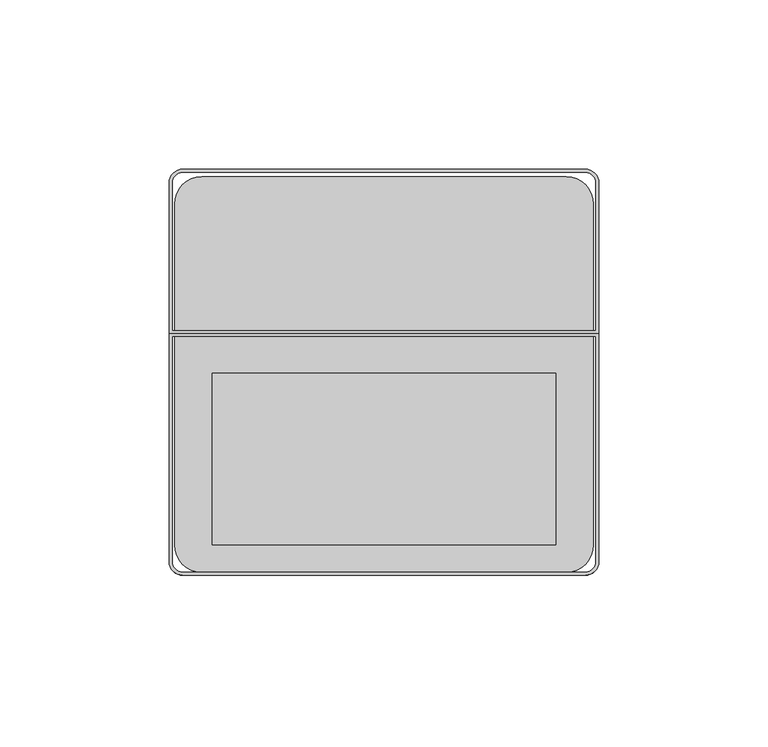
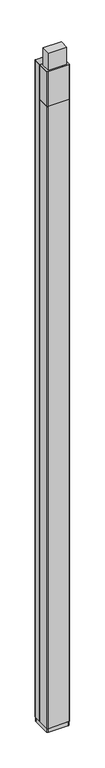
"""IFC4 building model written with IfcOpenShell, lengths in millimetres: proxy geometry, Jumbo_Tele_Pole-Wiremold-Blank_Aluminum_Pole : NP800C-12-8B."""

import ifcopenshell
import ifcopenshell.guid

model = None  # the IFC model being written
_history = None  # IfcOwnerHistory: only IFC2X3 demands one
_inside = {}  # id of a spatial element -> (the spatial element, [elements in it])
_under = {}  # id of a project, library or spatial element -> (it, [spatial elements below it])
_declared = {}  # id of a project -> (the project, [libraries it declares])
_typed = {}  # id of a type object -> (the type object, [elements of that type])
_made_of = {}  # id of a material, layer set ... -> (it, [elements and type objects made of it])


def new_model(schema):
    """Start an empty IFC model of exactly this schema.

    Asked for "IFC4X3", IfcOpenShell would pick the latest addendum, in which some entities
    have other attributes; the version numbers below select the first issue.
    IFC2X3 requires an IfcOwnerHistory on every rooted entity: one is made here for all.
    """
    global model, _history
    if schema == "IFC4X3":
        model = ifcopenshell.file(schema_version=(4, 3, 0, 0))
    else:
        model = ifcopenshell.file(schema=schema)
    _inside.clear()
    _under.clear()
    _declared.clear()
    _typed.clear()
    _made_of.clear()
    _history = None
    if model.schema == "IFC2X3":
        org = make("IfcOrganization", Name="unknown")
        user = make(
            "IfcPersonAndOrganization",
            ThePerson=make("IfcPerson", FamilyName="unknown"),
            TheOrganization=org,
        )
        app = make(
            "IfcApplication",
            ApplicationDeveloper=org,
            Version="unknown",
            ApplicationFullName="unknown",
            ApplicationIdentifier="unknown",
        )
        _history = make(
            "IfcOwnerHistory",
            OwningUser=user,
            OwningApplication=app,
            ChangeAction="ADDED",
            CreationDate=0,
        )
    return model


def make(cls, **values):
    """One entity of the class cls with the attributes given. An attribute that is None is left unset."""
    return model.create_entity(
        cls, **{name: value for name, value in values.items() if value is not None}
    )


def rooted(cls, **values):
    """An entity with a GlobalId (a new one), such as an element, a storey or a relation."""
    return make(cls, GlobalId=ifcopenshell.guid.new(), OwnerHistory=_history, **values)


def si_unit(unit_type, name, prefix=None):
    """IfcSIUnit, for example si_unit("LENGTHUNIT", "METRE", prefix="MILLI")."""
    return make("IfcSIUnit", UnitType=unit_type, Prefix=prefix, Name=name)


def assignment(units):
    """IfcUnitAssignment: the units of a project."""
    return None if units is None else make("IfcUnitAssignment", Units=units)


def point(xyz):
    """IfcCartesianPoint."""
    return None if xyz is None else make("IfcCartesianPoint", Coordinates=xyz)


def direction(xyz):
    """IfcDirection."""
    return None if xyz is None else make("IfcDirection", DirectionRatios=xyz)


def frame(location, z_axis=None, x_axis=None):
    """IfcAxis2Placement3D, a coordinate frame: its origin and axes. An axis left out is left unset."""
    return make(
        "IfcAxis2Placement3D",
        Location=point(location),
        Axis=direction(z_axis),
        RefDirection=direction(x_axis),
    )


def frame_2d(location, x_axis=None):
    """IfcAxis2Placement2D, a coordinate frame in the plane: its origin and x axis."""
    return make(
        "IfcAxis2Placement2D", Location=point(location), RefDirection=direction(x_axis)
    )


def origin():
    """The frame at (0, 0, 0) with its axes left unset."""
    return frame((0.0, 0.0, 0.0))


def origin_with_axes():
    """The frame at (0, 0, 0) with the z axis (0, 0, 1) and the x axis (1, 0, 0) written out."""
    return frame((0.0, 0.0, 0.0), z_axis=(0.0, 0.0, 1.0), x_axis=(1.0, 0.0, 0.0))


def place(relative_to, where):
    """IfcLocalPlacement: puts the frame where relative to a parent placement (None: the world)."""
    return make(
        "IfcLocalPlacement", PlacementRelTo=relative_to, RelativePlacement=where
    )


def context(
    kind, dimensions, precision=None, world=None, true_north=None, identifier=None
):
    """IfcGeometricRepresentationContext, for example the 3D "Model" context."""
    return make(
        "IfcGeometricRepresentationContext",
        ContextIdentifier=identifier,
        ContextType=kind,
        CoordinateSpaceDimension=dimensions,
        Precision=precision,
        WorldCoordinateSystem=world,
        TrueNorth=true_north,
    )


def project(units=None, contexts=None):
    """IfcProject with its units and contexts."""
    return rooted(
        "IfcProject",
        Name="project",
        RepresentationContexts=contexts,
        UnitsInContext=assignment(units),
    )


def spatial(cls, under=None, at=None, **own):
    """A site, building, storey or space (cls), placed at a placement, below another one or the project."""
    s = rooted(cls, ObjectPlacement=at, **own)
    if under is not None:
        _under.setdefault(under.id(), (under, []))[1].append(s)
    return s


def polyline(points):
    """IfcPolyline through the points."""
    return make("IfcPolyline", Points=[point(p) for p in points])


def circle_curve(where, radius):
    """IfcCircle in the frame where."""
    return make("IfcCircle", Position=where, Radius=radius)


def trimmed(basis, trim1, trim2, sense, master):
    """IfcTrimmedCurve: the piece of a basis curve between two trims."""
    return make(
        "IfcTrimmedCurve",
        BasisCurve=basis,
        Trim1=trim1,
        Trim2=trim2,
        SenseAgreement=sense,
        MasterRepresentation=master,
    )


def segment(curve, same_sense, transition):
    """IfcCompositeCurveSegment."""
    return make(
        "IfcCompositeCurveSegment",
        Transition=transition,
        SameSense=same_sense,
        ParentCurve=curve,
    )


def composite_curve(segments, self_intersect=None):
    """IfcCompositeCurve: segments joined end to end."""
    return make("IfcCompositeCurve", Segments=segments, SelfIntersect=self_intersect)


def outline(outer, holes=None, kind="AREA"):
    """IfcArbitraryClosedProfileDef: a profile drawn as a closed curve; with holes, ...WithVoids."""
    if holes is None:
        return make("IfcArbitraryClosedProfileDef", ProfileType=kind, OuterCurve=outer)
    return make(
        "IfcArbitraryProfileDefWithVoids",
        ProfileType=kind,
        OuterCurve=outer,
        InnerCurves=holes,
    )


def extrude(swept, where, along, depth):
    """IfcExtrudedAreaSolid: the profile swept, set in the frame where, extruded along a direction by depth."""
    return make(
        "IfcExtrudedAreaSolid",
        SweptArea=swept,
        Position=where,
        ExtrudedDirection=direction(along),
        Depth=depth,
    )


def shape(context_of_items, identifier, shape_type, items):
    """IfcShapeRepresentation: the items that make up one representation, for example the "Body"."""
    return make(
        "IfcShapeRepresentation",
        ContextOfItems=context_of_items,
        RepresentationIdentifier=identifier,
        RepresentationType=shape_type,
        Items=items,
    )


def source(mapping_origin, context_of_items, identifier, shape_type, items):
    """IfcRepresentationMap: a shape defined once, which mapped items show again and again."""
    return make(
        "IfcRepresentationMap",
        MappingOrigin=mapping_origin,
        MappedRepresentation=shape(context_of_items, identifier, shape_type, items),
    )


def transform(
    local_origin,
    x_axis=None,
    y_axis=None,
    z_axis=None,
    scale=None,
    scale2=None,
    scale3=None,
    uniform=True,
):
    """IfcCartesianTransformationOperator3D, or its non-uniform kind. x_axis, y_axis, z_axis: its Axis1, 2, 3."""
    if uniform:
        return make(
            "IfcCartesianTransformationOperator3D",
            Axis1=direction(x_axis),
            Axis2=direction(y_axis),
            LocalOrigin=point(local_origin),
            Scale=scale,
            Axis3=direction(z_axis),
        )
    return make(
        "IfcCartesianTransformationOperator3DnonUniform",
        Axis1=direction(x_axis),
        Axis2=direction(y_axis),
        LocalOrigin=point(local_origin),
        Scale=scale,
        Axis3=direction(z_axis),
        Scale2=scale2,
        Scale3=scale3,
    )


def mapped(mapping_source, mapping_target):
    """IfcMappedItem: shows the shape of a source again, moved by a transform."""
    return make(
        "IfcMappedItem", MappingSource=mapping_source, MappingTarget=mapping_target
    )


def made_of(thing, what):
    """Note that an element or type object is made of a material, layer set ...; save() writes the relation."""
    if what is not None:
        _made_of.setdefault(what.id(), (what, []))[1].append(thing)
    return thing


def element(
    cls,
    number,
    at=None,
    inside=None,
    cuts=None,
    type_object=None,
    material=None,
    context=None,
    identifier="Body",
    shape_type=None,
    held_by="IfcProductDefinitionShape",
    body=None,
    shapes=None,
    **own,
):
    """One element of the class cls, such as IfcWall. Its Tag is "e" and its number.

    at: its placement. inside: the storey or other place that contains it. cuts: it is an
    opening in that element (IfcRelVoidsElement). A single representation is given by context,
    identifier, shape_type and body (its items); several are given by shapes. held_by: the class
    of the entity that holds the representations. save() writes the other relations.
    """
    e = rooted(cls, Tag="e%d" % number, ObjectPlacement=at, **own)
    if body is not None:
        shapes = [shape(context, identifier, shape_type, body)]
    if shapes is not None:
        e.Representation = make(held_by, Representations=shapes)
    if inside is not None:
        _inside.setdefault(inside.id(), (inside, []))[1].append(e)
    if cuts is not None:
        rooted(
            "IfcRelVoidsElement", RelatingBuildingElement=cuts, RelatedOpeningElement=e
        )
    if type_object is not None:
        _typed.setdefault(type_object.id(), (type_object, []))[1].append(e)
    return made_of(e, material)


def aggregate(whole, parts):
    """IfcRelAggregates: a whole, such as a stair, and the parts it consists of."""
    return rooted("IfcRelAggregates", RelatingObject=whole, RelatedObjects=parts)


def save(model, path):
    """Write the relations noted so far, then the file.

    IfcRelAggregates (storeys below a building ...), IfcRelContainedInSpatialStructure (elements
    in a storey), IfcRelDefinesByType, IfcRelAssociatesMaterial and IfcRelDeclares: one each for
    every whole, place, type object, material and project.
    """
    for whole, parts in _under.values():
        aggregate(whole, parts)
    for where, things in _inside.values():
        rooted(
            "IfcRelContainedInSpatialStructure",
            RelatedElements=things,
            RelatingStructure=where,
        )
    for kind, things in _typed.values():
        rooted("IfcRelDefinesByType", RelatedObjects=things, RelatingType=kind)
    for what, things in _made_of.values():
        rooted("IfcRelAssociatesMaterial", RelatedObjects=things, RelatingMaterial=what)
    for by, libraries in _declared.values():
        rooted("IfcRelDeclares", RelatingContext=by, RelatedDefinitions=libraries)
    model.write(path)


def electrical_fixtures_449e16e0(model_context):
    return source(origin(), model_context, "Body", "SweptSolid", [
        extrude(outline(polyline([(50.8, 7.35), (-50.8, 7.35), (-50.8, 58.15), (50.8, 58.15), (50.8, 7.35)])), frame((0.0, 0.0, 3860.8), z_axis=(0.0, 0.0, 1.0), x_axis=(1.0, 0.0, 0.0)), (0.0, 0.0, 1.0), 101.6),
        extrude(outline(composite_curve([segment(polyline([(-63.5, 69.85), (63.5, 69.85), (63.5, 2.4125)]), True, "CONTINUOUS"), segment(trimmed(circle_curve(frame_2d((59.5, 2.4125)), 4.0), [point((63.5, 2.4125))], [point((59.5, -1.5875))], False, "CARTESIAN"), True, "CONTINUOUS"), segment(polyline([(59.5, -1.5875), (-59.5, -1.5875)]), True, "CONTINUOUS"), segment(trimmed(circle_curve(frame_2d((-59.5, 2.4125)), 4.0), [point((-59.5, -1.5875))], [point((-63.5, 2.4125))], False, "CARTESIAN"), True, "CONTINUOUS"), segment(polyline([(-63.5, 2.4125), (-63.5, 69.85)]), True, "CONTINUOUS")], self_intersect=False), holes=[composite_curve([segment(trimmed(circle_curve(frame_2d((-59.5, 2.4125)), 3.0), [point((-62.5, 2.4125))], [point((-59.5, -0.5875))], True, "CARTESIAN"), True, "CONTINUOUS"), segment(polyline([(-59.5, -0.5875), (59.5, -0.5875)]), True, "CONTINUOUS"), segment(trimmed(circle_curve(frame_2d((59.5, 2.4125)), 3.0), [point((59.5, -0.5875))], [point((62.5, 2.4125))], True, "CARTESIAN"), True, "CONTINUOUS"), segment(polyline([(62.5, 2.4125), (62.5, 68.85), (-62.5, 68.85), (-62.5, 2.4125)]), True, "CONTINUOUS")], self_intersect=False)]), frame((0.0, 0.0, 3657.6), z_axis=(0.0, 0.0, 1.0), x_axis=(1.0, 0.0, 0.0)), (0.0, 0.0, 1.0), 203.2),
        extrude(outline(composite_curve([segment(trimmed(circle_curve(frame_2d((59.5, 114.4125)), 4.0), [point((59.5, 118.4125))], [point((63.5, 114.4125))], False, "CARTESIAN"), True, "CONTINUOUS"), segment(polyline([(63.5, 114.4125), (63.5, 69.85), (-63.5, 69.85), (-63.5, 114.4125)]), True, "CONTINUOUS"), segment(trimmed(circle_curve(frame_2d((-59.5, 114.4125)), 4.0), [point((-63.5, 114.4125))], [point((-59.5, 118.4125))], False, "CARTESIAN"), True, "CONTINUOUS"), segment(polyline([(-59.5, 118.4125), (59.5, 118.4125)]), True, "CONTINUOUS")], self_intersect=False), holes=[composite_curve([segment(polyline([(62.5, 70.85), (62.5, 114.4125)]), True, "CONTINUOUS"), segment(trimmed(circle_curve(frame_2d((59.5, 114.4125)), 3.0), [point((62.5, 114.4125))], [point((59.5, 117.4125))], True, "CARTESIAN"), True, "CONTINUOUS"), segment(polyline([(59.5, 117.4125), (-59.5, 117.4125)]), True, "CONTINUOUS"), segment(trimmed(circle_curve(frame_2d((-59.5, 114.4125)), 3.0), [point((-59.5, 117.4125))], [point((-62.5, 114.4125))], True, "CARTESIAN"), True, "CONTINUOUS"), segment(polyline([(-62.5, 114.4125), (-62.5, 70.85), (62.5, 70.85)]), True, "CONTINUOUS")], self_intersect=False)]), origin_with_axes(), (0.0, 0.0, 1.0), 3860.8),
        extrude(outline(composite_curve([segment(polyline([(63.5, 69.85), (63.5, 2.4125)]), True, "CONTINUOUS"), segment(trimmed(circle_curve(frame_2d((59.5, 2.4125)), 4.0), [point((63.5, 2.4125))], [point((59.5, -1.5875))], False, "CARTESIAN"), True, "CONTINUOUS"), segment(polyline([(59.5, -1.5875), (-59.5, -1.5875)]), True, "CONTINUOUS"), segment(trimmed(circle_curve(frame_2d((-59.5, 2.4125)), 4.0), [point((-59.5, -1.5875))], [point((-63.5, 2.4125))], False, "CARTESIAN"), True, "CONTINUOUS"), segment(polyline([(-63.5, 2.4125), (-63.5, 69.85), (63.5, 69.85)]), True, "CONTINUOUS")], self_intersect=False), holes=[composite_curve([segment(polyline([(-62.5, 69.05), (-62.5, 2.4125)]), True, "CONTINUOUS"), segment(trimmed(circle_curve(frame_2d((-59.5, 2.4125)), 3.0), [point((-62.5, 2.4125))], [point((-59.5, -0.5875))], True, "CARTESIAN"), True, "CONTINUOUS"), segment(polyline([(-59.5, -0.5875), (59.5, -0.5875)]), True, "CONTINUOUS"), segment(trimmed(circle_curve(frame_2d((59.5, 2.4125)), 3.0), [point((59.5, -0.5875))], [point((62.5, 2.4125))], True, "CARTESIAN"), True, "CONTINUOUS"), segment(polyline([(62.5, 2.4125), (62.5, 69.05), (-62.5, 69.05)]), True, "CONTINUOUS")], self_intersect=False)]), origin_with_axes(), (0.0, 0.0, 1.0), 3657.6),
        extrude(outline(composite_curve([segment(trimmed(circle_curve(frame_2d((53.9125, 108.825)), 8.0), [point((53.9125, 116.825))], [point((61.9125, 108.825))], False, "CARTESIAN"), True, "CONTINUOUS"), segment(polyline([(61.9125, 108.825), (61.9125, 8.0)]), True, "CONTINUOUS"), segment(trimmed(circle_curve(frame_2d((53.9125, 8.0)), 8.0), [point((61.9125, 8.0))], [point((53.9125, 0.0))], False, "CARTESIAN"), True, "CONTINUOUS"), segment(polyline([(53.9125, 0.0), (-53.9125, 0.0)]), True, "CONTINUOUS"), segment(trimmed(circle_curve(frame_2d((-53.9125, 8.0)), 8.0), [point((-53.9125, 0.0))], [point((-61.9125, 8.0))], False, "CARTESIAN"), True, "CONTINUOUS"), segment(polyline([(-61.9125, 8.0), (-61.9125, 108.825)]), True, "CONTINUOUS"), segment(trimmed(circle_curve(frame_2d((-53.9125, 108.825)), 8.0), [point((-61.9125, 108.825))], [point((-53.9125, 116.825))], False, "CARTESIAN"), True, "CONTINUOUS"), segment(polyline([(-53.9125, 116.825), (53.9125, 116.825)]), True, "CONTINUOUS")], self_intersect=False)), frame((0.0, 0.0, -25.4), z_axis=(0.0, 0.0, 1.0), x_axis=(1.0, 0.0, 0.0)), (0.0, 0.0, 1.0), 25.4),
    ])


if __name__ == "__main__":
    model = new_model("IFC4")
    model_context = context("Model", 3, world=origin())
    ifc_project = project(units=[si_unit("LENGTHUNIT", "METRE", prefix="MILLI")], contexts=[model_context])
    site = spatial("IfcSite", under=ifc_project)
    building = spatial("IfcBuilding", under=site)
    placement = place(None, origin())
    electrical_fixtures_shape = electrical_fixtures_449e16e0(model_context)
    element("IfcBuildingElementProxy", 1, Name="Jumbo_Tele_Pole-Wiremold-Blank_Aluminum_Pole : NP800C-12-8B", ObjectType="Jumbo_Tele_Pole-Wiremold-Blank_Aluminum_Pole : NP800C-12-8B", at=placement, inside=building, context=model_context, shape_type="MappedRepresentation", body=[
        mapped(electrical_fixtures_shape, transform((0.0, 0.0, 0.0), x_axis=(1.0, 0.0, 0.0), y_axis=(0.0, 1.0, 0.0), z_axis=(0.0, 0.0, 1.0))),
    ])
    save(model, "model.ifc")
